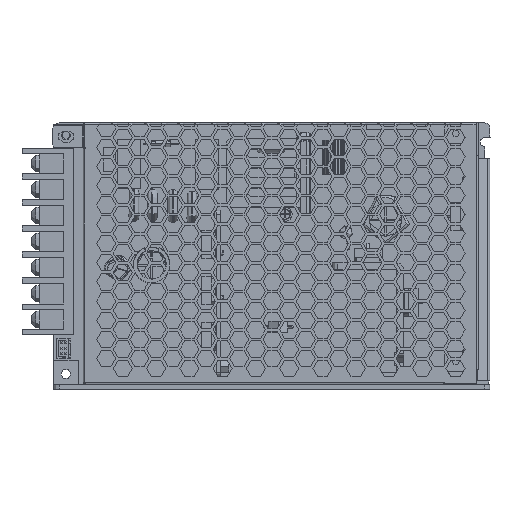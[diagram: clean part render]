
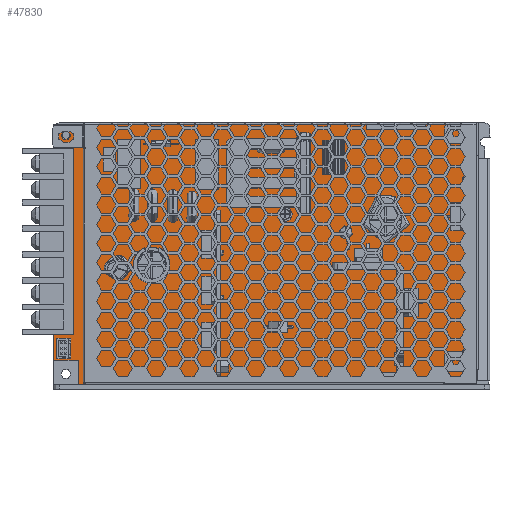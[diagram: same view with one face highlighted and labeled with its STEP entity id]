
A CAD part, top view. The second image highlights one B-rep face of the part: STEP entity #47830.
In plain terms, the highlighted planar face has unit normal (0, 0, 1).
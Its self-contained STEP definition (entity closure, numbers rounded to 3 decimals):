
#42860=CARTESIAN_POINT('',(-329.667,299.625,0.));
#42870=DIRECTION('',(0.,-1.,0.));
#42880=VECTOR('',#42870,1.);
#42890=LINE('',#42860,#42880);
#42900=CARTESIAN_POINT('',(-329.667,299.625,0.));
#42910=VERTEX_POINT('',#42900);
#42920=CARTESIAN_POINT('',(-329.667,213.625,0.));
#42930=VERTEX_POINT('',#42920);
#42940=EDGE_CURVE('',#42910,#42930,#42890,.T.);
#43260=CARTESIAN_POINT('',(-329.667,213.625,0.));
#43270=DIRECTION('',(1.,0.,0.));
#43280=VECTOR('',#43270,1.);
#43290=LINE('',#43260,#43280);
#43300=CARTESIAN_POINT('',(-320.667,213.625,0.));
#43310=VERTEX_POINT('',#43300);
#43320=EDGE_CURVE('',#42930,#43310,#43290,.T.);
#43570=CARTESIAN_POINT('',(-320.667,213.625,0.));
#43580=DIRECTION('',(0.,-1.,0.));
#43590=VECTOR('',#43580,1.);
#43600=LINE('',#43570,#43590);
#43610=CARTESIAN_POINT('',(-320.667,204.625,0.));
#43620=VERTEX_POINT('',#43610);
#43630=EDGE_CURVE('',#43310,#43620,#43600,.T.);
#43880=CARTESIAN_POINT('',(-320.667,204.625,0.));
#43890=DIRECTION('',(1.,0.,0.));
#43900=VECTOR('',#43890,1.);
#43910=LINE('',#43880,#43900);
#43920=CARTESIAN_POINT('',(-241.167,204.625,0.));
#43930=VERTEX_POINT('',#43920);
#43940=EDGE_CURVE('',#43620,#43930,#43910,.T.);
#44190=CARTESIAN_POINT('',(-241.167,204.625,0.));
#44200=DIRECTION('',(0.,1.,0.));
#44210=VECTOR('',#44200,1.);
#44220=LINE('',#44190,#44210);
#44230=CARTESIAN_POINT('',(-241.167,205.125,0.));
#44240=VERTEX_POINT('',#44230);
#44250=EDGE_CURVE('',#43930,#44240,#44220,.T.);
#44500=CARTESIAN_POINT('',(-241.167,205.125,0.));
#44510=DIRECTION('',(1.,0.,0.));
#44520=VECTOR('',#44510,1.);
#44530=LINE('',#44500,#44520);
#44540=CARTESIAN_POINT('',(-193.167,205.125,0.));
#44550=VERTEX_POINT('',#44540);
#44560=EDGE_CURVE('',#44240,#44550,#44530,.T.);
#44810=CARTESIAN_POINT('',(-193.167,205.125,0.));
#44820=DIRECTION('',(0.,-1.,0.));
#44830=VECTOR('',#44820,1.);
#44840=LINE('',#44810,#44830);
#44850=CARTESIAN_POINT('',(-193.167,204.625,0.));
#44860=VERTEX_POINT('',#44850);
#44870=EDGE_CURVE('',#44550,#44860,#44840,.T.);
#45120=CARTESIAN_POINT('',(-193.167,204.625,0.));
#45130=DIRECTION('',(1.,0.,0.));
#45140=VECTOR('',#45130,1.);
#45150=LINE('',#45120,#45140);
#45160=CARTESIAN_POINT('',(-177.167,204.625,0.));
#45170=VERTEX_POINT('',#45160);
#45180=EDGE_CURVE('',#44860,#45170,#45150,.T.);
#45430=CARTESIAN_POINT('',(-177.167,204.625,0.));
#45440=DIRECTION('',(0.,1.,0.));
#45450=VECTOR('',#45440,1.);
#45460=LINE('',#45430,#45450);
#45470=CARTESIAN_POINT('',(-177.167,299.625,0.));
#45480=VERTEX_POINT('',#45470);
#45490=EDGE_CURVE('',#45170,#45480,#45460,.T.);
#45740=CARTESIAN_POINT('',(-177.167,299.625,0.));
#45750=DIRECTION('',(-1.,0.,0.));
#45760=VECTOR('',#45750,1.);
#45770=LINE('',#45740,#45760);
#45780=CARTESIAN_POINT('',(-194.167,299.625,0.));
#45790=VERTEX_POINT('',#45780);
#45800=EDGE_CURVE('',#45480,#45790,#45770,.T.);
#46050=CARTESIAN_POINT('',(-194.167,299.625,0.));
#46060=DIRECTION('',(0.,-1.,0.));
#46070=VECTOR('',#46060,1.);
#46080=LINE('',#46050,#46070);
#46090=CARTESIAN_POINT('',(-194.167,297.625,0.));
#46100=VERTEX_POINT('',#46090);
#46110=EDGE_CURVE('',#45790,#46100,#46080,.T.);
#46360=CARTESIAN_POINT('',(-194.167,297.625,0.));
#46370=DIRECTION('',(-1.,0.,0.));
#46380=VECTOR('',#46370,1.);
#46390=LINE('',#46360,#46380);
#46400=CARTESIAN_POINT('',(-215.667,297.625,0.));
#46410=VERTEX_POINT('',#46400);
#46420=EDGE_CURVE('',#46100,#46410,#46390,.T.);
#46670=CARTESIAN_POINT('',(-215.667,297.625,0.));
#46680=DIRECTION('',(0.,1.,0.));
#46690=VECTOR('',#46680,1.);
#46700=LINE('',#46670,#46690);
#46710=CARTESIAN_POINT('',(-215.667,299.625,0.));
#46720=VERTEX_POINT('',#46710);
#46730=EDGE_CURVE('',#46410,#46720,#46700,.T.);
#46980=CARTESIAN_POINT('',(-215.667,299.625,0.));
#46990=DIRECTION('',(-1.,0.,0.));
#47000=VECTOR('',#46990,1.);
#47010=LINE('',#46980,#47000);
#47020=EDGE_CURVE('',#46720,#42910,#47010,.T.);
#47260=CARTESIAN_POINT('',(-323.417,295.625,0.));
#47270=VERTEX_POINT('',#47260);
#47300=CARTESIAN_POINT('',(-325.167,295.625,0.));
#47310=DIRECTION('',(0.,0.,1.));
#47320=DIRECTION('',(1.,0.,0.));
#47330=AXIS2_PLACEMENT_3D('',#47300,#47310,#47320);
#47340=CIRCLE('',#47330,1.75);
#47350=CARTESIAN_POINT('',(-326.917,295.625,0.));
#47360=VERTEX_POINT('',#47350);
#47370=EDGE_CURVE('',#47360,#47270,#47340,.T.);
#47570=CARTESIAN_POINT('',(-441.667,96.625,0.));
#47580=DIRECTION('',(0.,0.,1.));
#47590=DIRECTION('',(1.,0.,0.));
#47600=AXIS2_PLACEMENT_3D('',#47570,#47580,#47590);
#47610=PLANE('',#47600);
#47620=ORIENTED_EDGE('',*,*,#47020,.T.);
#47630=ORIENTED_EDGE('',*,*,#46730,.T.);
#47640=ORIENTED_EDGE('',*,*,#46420,.T.);
#47650=ORIENTED_EDGE('',*,*,#46110,.T.);
#47660=ORIENTED_EDGE('',*,*,#45800,.T.);
#47670=ORIENTED_EDGE('',*,*,#45490,.T.);
#47680=ORIENTED_EDGE('',*,*,#45180,.T.);
#47690=ORIENTED_EDGE('',*,*,#44870,.T.);
#47700=ORIENTED_EDGE('',*,*,#44560,.T.);
#47710=ORIENTED_EDGE('',*,*,#44250,.T.);
#47720=ORIENTED_EDGE('',*,*,#43940,.T.);
#47730=ORIENTED_EDGE('',*,*,#43630,.T.);
#47740=ORIENTED_EDGE('',*,*,#43320,.T.);
#47750=ORIENTED_EDGE('',*,*,#42940,.T.);
#47760=EDGE_LOOP('',(#47750,#47740,#47730,#47720,#47710,#47700,#47690,
#47680,#47670,#47660,#47650,#47640,#47630,#47620));
#47770=FACE_OUTER_BOUND('',#47760,.T.);
#47780=ORIENTED_EDGE('',*,*,#47370,.F.);
#47790=EDGE_CURVE('',#47270,#47360,#47340,.T.);
#47800=ORIENTED_EDGE('',*,*,#47790,.F.);
#47810=EDGE_LOOP('',(#47800,#47780));
#47820=FACE_BOUND('',#47810,.T.);
#47830=ADVANCED_FACE('',(#47770,#47820),#47610,.T.);
